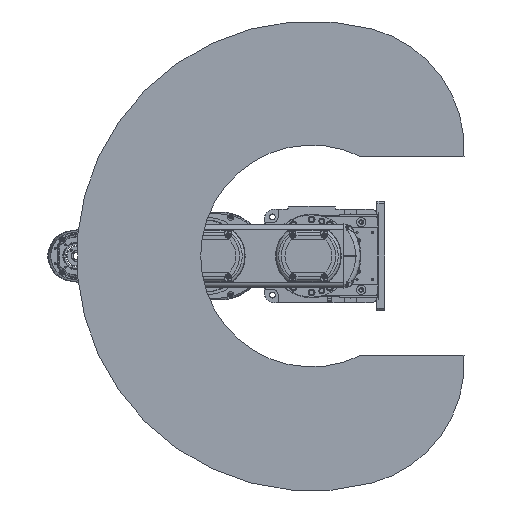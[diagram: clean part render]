
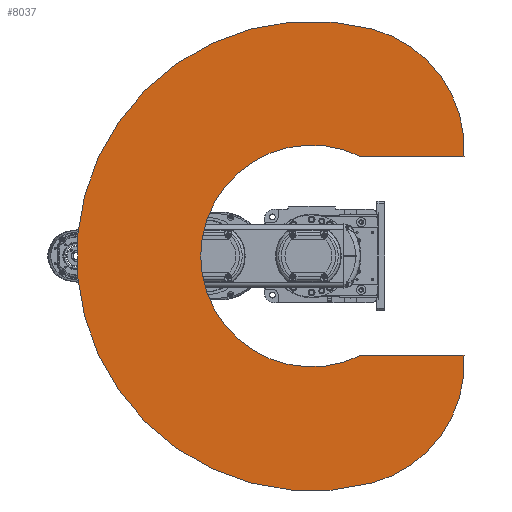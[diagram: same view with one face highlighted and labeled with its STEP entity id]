
A CAD part, front view. The second image highlights one B-rep face of the part: STEP entity #8037.
In plain terms, the highlighted planar face has unit normal (0, -1, 0).
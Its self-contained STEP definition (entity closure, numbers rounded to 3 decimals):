
#8037 = ADVANCED_FACE( '', ( #17180 ), #17181, .F. );
#17180 = FACE_OUTER_BOUND( '', #27217, .T. );
#17181 = PLANE( '', #27218 );
#27217 = EDGE_LOOP( '', ( #48999, #49000, #49001, #49002, #49003, #49004 ) );
#27218 = AXIS2_PLACEMENT_3D( '', #49005, #49006, #49007 );
#48999 = ORIENTED_EDGE( '', *, *, #57698, .T. );
#49000 = ORIENTED_EDGE( '', *, *, #57222, .F. );
#49001 = ORIENTED_EDGE( '', *, *, #55456, .F. );
#49002 = ORIENTED_EDGE( '', *, *, #53398, .F. );
#49003 = ORIENTED_EDGE( '', *, *, #52212, .T. );
#49004 = ORIENTED_EDGE( '', *, *, #57634, .F. );
#49005 = CARTESIAN_POINT( '', ( 102.614, 0., 27.495 ) );
#49006 = DIRECTION( '', ( 0., 1., 0. ) );
#49007 = DIRECTION( '', ( 0., 0., 1. ) );
#52212 = EDGE_CURVE( '', #62238, #62240, #62242, .T. );
#53398 = EDGE_CURVE( '', #62238, #64190, #64191, .T. );
#55456 = EDGE_CURVE( '', #64190, #67349, #67350, .T. );
#57222 = EDGE_CURVE( '', #67349, #69706, #69708, .T. );
#57634 = EDGE_CURVE( '', #70209, #62240, #70211, .F. );
#57698 = EDGE_CURVE( '', #70209, #69706, #70285, .T. );
#62238 = VERTEX_POINT( '', #77804 );
#62240 = VERTEX_POINT( '', #77807 );
#62242 = LINE( '', #77810, #77811 );
#64190 = VERTEX_POINT( '', #81044 );
#64191 = CIRCLE( '', #81045, 237.533 );
#67349 = VERTEX_POINT( '', #86377 );
#67350 = CIRCLE( '', #86378, 450. );
#69706 = VERTEX_POINT( '', #90179 );
#69708 = CIRCLE( '', #90182, 237.533 );
#70209 = VERTEX_POINT( '', #90885 );
#70211 = CIRCLE( '', #90888, 212.47 );
#70285 = LINE( '', #90972, #90973 );
#77804 = CARTESIAN_POINT( '', ( 190., 0., 292.035 ) );
#77807 = CARTESIAN_POINT( '', ( 190., 0., 95.097 ) );
#77810 = CARTESIAN_POINT( '', ( 190., 0., 400. ) );
#77811 = VECTOR( '', #95383, 1000. );
#81044 = CARTESIAN_POINT( '', ( 434.667, 0., 116.469 ) );
#81045 = AXIS2_PLACEMENT_3D( '', #96822, #96823, #96824 );
#86377 = CARTESIAN_POINT( '', ( -434.667, 0., 116.469 ) );
#86378 = AXIS2_PLACEMENT_3D( '', #99381, #99382, #99383 );
#90179 = CARTESIAN_POINT( '', ( -190., 0., 292.035 ) );
#90182 = AXIS2_PLACEMENT_3D( '', #101304, #101305, #101306 );
#90885 = CARTESIAN_POINT( '', ( -190., 0., 95.097 ) );
#90888 = AXIS2_PLACEMENT_3D( '', #101696, #101697, #101698 );
#90972 = CARTESIAN_POINT( '', ( -190., 0., 0. ) );
#90973 = VECTOR( '', #101760, 1000. );
#95383 = DIRECTION( '', ( 0., 0., -1. ) );
#96822 = CARTESIAN_POINT( '', ( 205.228, 0., 54.991 ) );
#96823 = DIRECTION( '', ( 0., 1., 0. ) );
#96824 = DIRECTION( '', ( 1., 0., 0. ) );
#99381 = CARTESIAN_POINT( '', ( 0., 0., 0. ) );
#99382 = DIRECTION( '', ( 0., 1., 0. ) );
#99383 = DIRECTION( '', ( 1., 0., 0. ) );
#101304 = CARTESIAN_POINT( '', ( -205.228, 0., 54.991 ) );
#101305 = DIRECTION( '', ( 0., 1., 0. ) );
#101306 = DIRECTION( '', ( 1., 0., 0. ) );
#101696 = CARTESIAN_POINT( '', ( 0., 0., 0. ) );
#101697 = DIRECTION( '', ( 0., 1., 0. ) );
#101698 = DIRECTION( '', ( 0., 0., 1. ) );
#101760 = DIRECTION( '', ( 0., 0., 1. ) );
